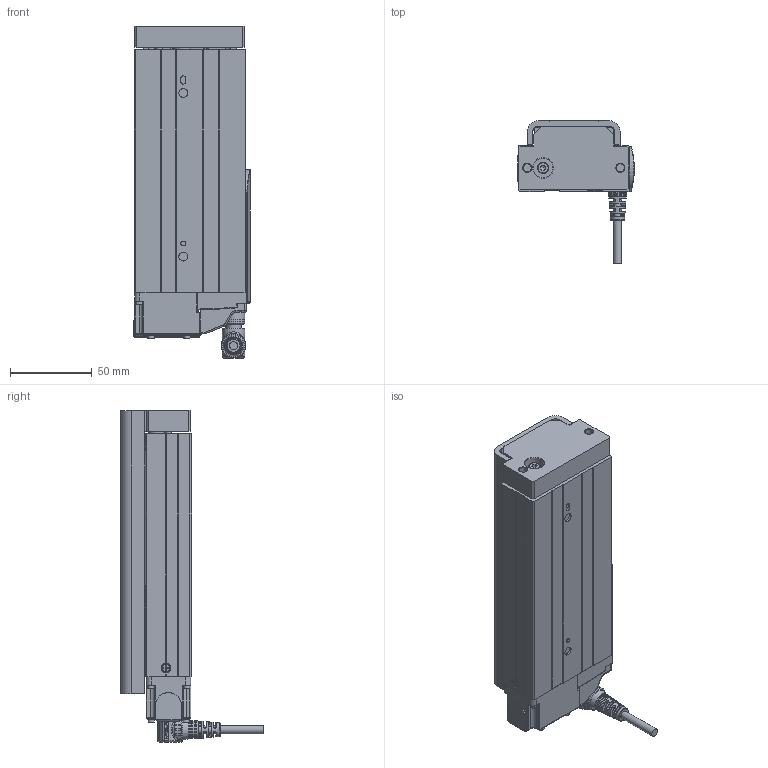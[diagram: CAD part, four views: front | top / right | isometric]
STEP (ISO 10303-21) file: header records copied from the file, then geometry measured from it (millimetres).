
FILE_DESCRIPTION(/* description */ ('STEP AP203'),/* implementation_level */ '2;1');
FILE_NAME(/* name */ 'D:\暫\2025.02.06 CSG 3D\CSG25-B\CSG25-S100-B-WM.stp',/* time_stamp */ '2025-02-08T10:40:38+08:00',/* author */ ('T10033'),/* organization */ (''),/* preprocessor_version */ 'ST-DEVELOPER v18.1',/* originating_system */ 'Autodesk Inventor 2020',/* authorisation */ '');
FILE_SCHEMA (('CONFIG_CONTROL_DESIGN'));
Products named in the file (25): CSG25-50行程-煞車; ©T©wªO-·¥­­¾×ª
O4-M2¤ú; M12 -14PIN  ªOºÝ-²Ä¤@ºØ
³W®æ; countersunk flat head cross recess screw_iso_ISO 7046-1 - M2.5 x 4 - 
Z - 4N; ¶ì½¦ºÝ»-L¼Ë¦¡(TOYO)-°
t¦XPCB(·Ù¨®¥Î)-DF3±µÀYª½
±µ©ñ¤Jª©; IS 2269 - M2 x 10; ISO 4762 - M2.5 x 6ISO; PCB; 43T34 TFSDR_Shrinkwrap_1; M12-14PIN 線端90度接頭-05中繼線; 4T3T6WS34TE35Y; countersunk flat head cross recess screw_iso_ISO 7046-1 - M2.5 x 4 - 
Z - 4N_1; ©T©wªO-·¥­­¾×ª
O4-M2¤ú_1; socket head cap screw_iso_ISO 4762 M2.5 x 6 - 6N; socket head cap screw_iso_ISO 4762 M2.5 x 8 - 8N; socket head cap screw_iso_ISO 4762 M2 x 12 - 12N; M12 -14PIN  ªOºÝ-²Ä¤@ºØ
³W®æ_1; CSG25-50¥»Åé3ª©-ªo¤Õ
½Õ¾ã¨¤«×; CSG25-Carriage-newtype; Solid1-2; socket head cap screw_iso_ISO 4762 M2.5 x 5 - 5N; 12003-000221-­×§ï; 22024-000496; CNS 3932 - M 4 x 0.7 x 12; CNS 4558 - M5 x 0.8 x 12
Assembly tree (36 placements, depth 3):
  CSG25-50行程-煞車
    ©T©wªO-·¥­­¾×ª
O4-M2¤ú
    M12 -14PIN  ªOºÝ-²Ä¤@ºØ
³W®æ
    countersunk flat head cross recess screw_iso_ISO 7046-1 - M2.5 x 4 - 
Z - 4N
    ¶ì½¦ºÝ»-L¼Ë¦¡(TOYO)-°
t¦XPCB(·Ù¨®¥Î)-DF3±µÀYª½
±µ©ñ¤Jª©
    IS 2269 - M2 x 10  x2
    ISO 4762 - M2.5 x 6ISO  x2
    PCB
    43T34 TFSDR_Shrinkwrap_1
    M12-14PIN 線端90度接頭-05中繼線
    4T3T6WS34TE35Y
      socket head cap screw_iso_ISO 4762 M2.5 x 8 - 8N  x8
      countersunk flat head cross recess screw_iso_ISO 7046-1 - M2.5 x 4 - 
Z - 4N_1
      ©T©wªO-·¥­­¾×ª
O4-M2¤ú_1
      socket head cap screw_iso_ISO 4762 M2.5 x 6 - 6N  x2
      socket head cap screw_iso_ISO 4762 M2 x 12 - 12N  x2
      M12 -14PIN  ªOºÝ-²Ä¤@ºØ
³W®æ_1
      CSG25-50¥»Åé3ª©-ªo¤Õ
½Õ¾ã¨¤«×
      CSG25-Carriage-newtype
      Solid1-2
      socket head cap screw_iso_ISO 4762 M2.5 x 5 - 5N
      12003-000221-­×§ï
      22024-000496
      CNS 3932 - M 4 x 0.7 x 12
      CNS 4558 - M5 x 0.8 x 12  x2
Bounding box: 71.25 x 87.53 x 203 mm (x, y, z)
Volume: 429038.9 mm3; surface area: 108884.7 mm2
Topology: 50 solids, 58 shells, 3187 faces, 8672 edges, 5730 vertices
Faces by surface type: plane 1589, cylinder 626, bspline 482, cone 334, torus 146, sphere 10
Full cylindrical faces by diameter (mm): 0.6 x28, 0.65 x14, 1 x14, 1.567 x1, 1.6 x4, 2 x6, 2.05 x5, 2.5 x19, 2.9 x2, 3 x3, 3.8 x10, 4 x1, 4.134 x8, 4.5 x15, 4.7 x2, 5 x7, 5.3 x2, 5.4 x4, 5.5 x4, 6 x3, 7 x1, 8 x1, 8.9 x1, 9 x12, 9.5 x2, 9.6 x1, 10 x6, 10.4 x2, 10.5 x4, 10.9 x1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
Entity records: 121534 total; most frequent: CARTESIAN_POINT 44664, ORIENTED_EDGE 16076, DIRECTION 14901, EDGE_CURVE 8056, AXIS2_PLACEMENT_3D 5399, VERTEX_POINT 5351, LINE 4103, VECTOR 4103
